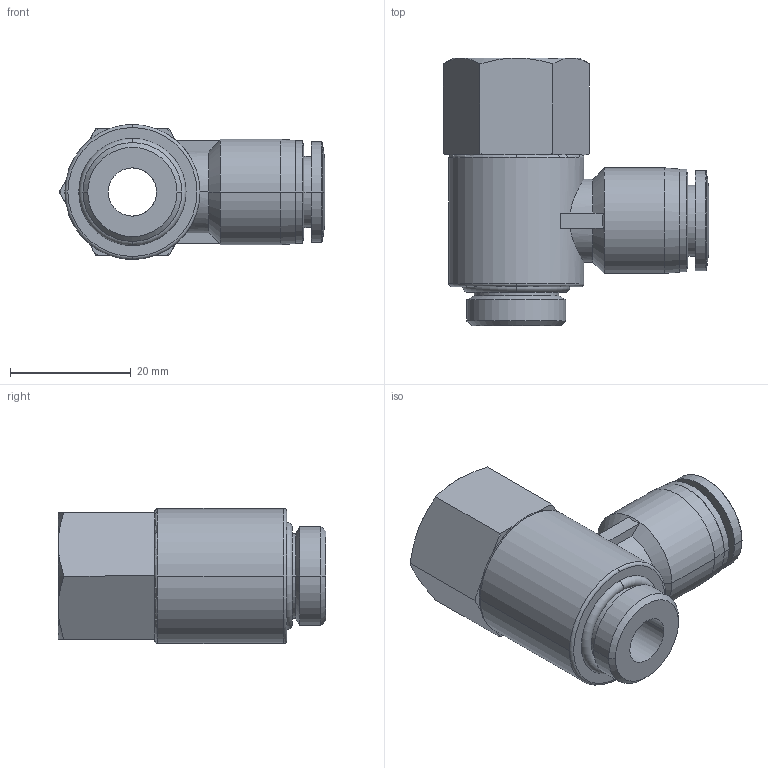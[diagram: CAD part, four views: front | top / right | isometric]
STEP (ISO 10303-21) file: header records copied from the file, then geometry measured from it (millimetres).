
FILE_DESCRIPTION (( 'STEP AP203' ), '1' );
FILE_NAME ('FVF10-03.STEP', '2020-05-11T14:29:56', ( '' ), ( '' ), 'SwSTEP 2.0', 'SolidWorks 2019', '' );
FILE_SCHEMA (( 'CONFIG_CONTROL_DESIGN' ));
Length unit declared in the file: millimetre
Products named in the file (1): FVF10-03
Bounding box: 44.02 x 44.4 x 22.4 mm (x, y, z)
Volume: 14220.1 mm3; surface area: 7509.6 mm2
Topology: 1 solids, 1 shells, 94 faces, 227 edges, 140 vertices
Faces by surface type: plane 33, cone 26, cylinder 25, torus 8, bspline 2
Entity records: 3012 total; most frequent: CARTESIAN_POINT 760, DIRECTION 487, ORIENTED_EDGE 454, EDGE_CURVE 227, AXIS2_PLACEMENT_3D 207, VERTEX_POINT 140, CIRCLE 114, EDGE_LOOP 103
